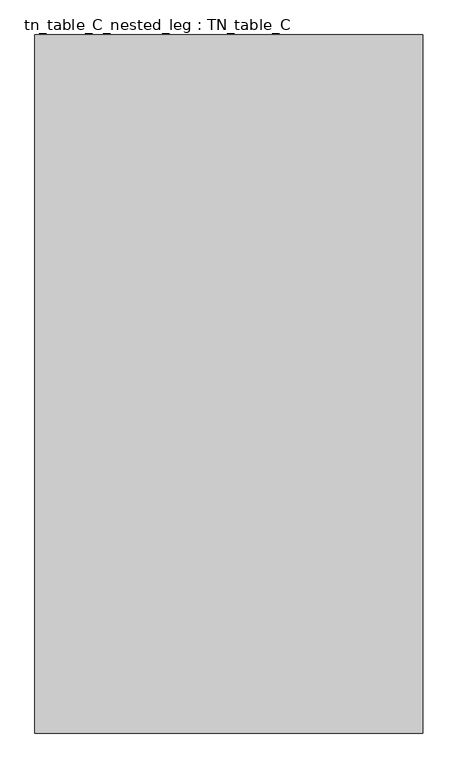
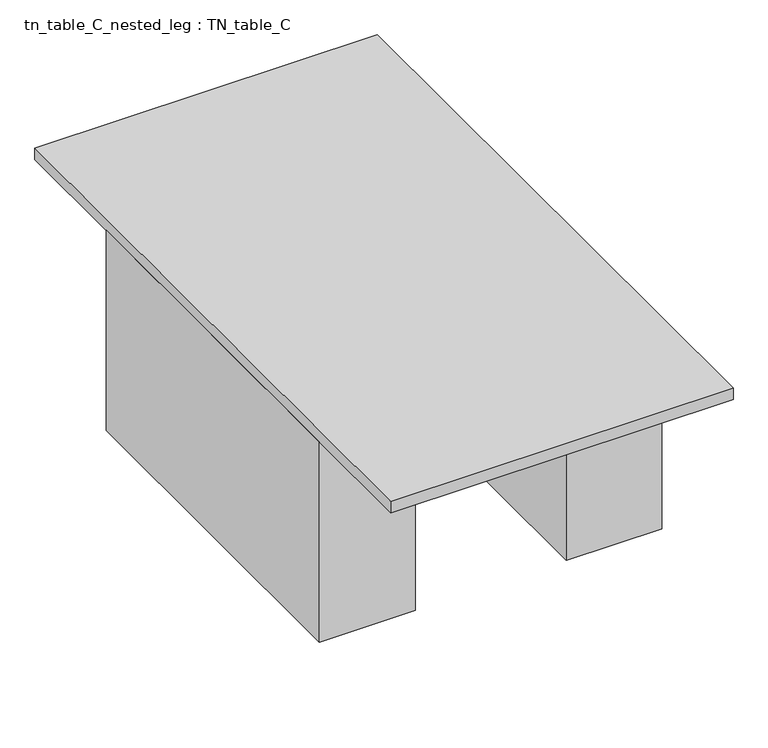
"""IFC4 building model written with IfcOpenShell, lengths in millimetres: furniture geometry, tn_table_C_nested_leg : TN_table_C."""

from ifc_helpers import new_model, si_unit, frame, origin, origin_with_axes, place, context, project, spatial, polyline, outline, extrude, source, transform, mapped, element, save


def tn_table_c_nested_leg_tn_table_c_cdfcde3a(model_context):
    return source(origin(), model_context, "Body", "SweptSolid", [
        extrude(outline(polyline([(-549.3929409, 587.7549923), (-549.3929409, -587.7549923), (-854.1929409, -587.7549923), (-854.1929409, 587.7549923), (-549.3929409, 587.7549923)])), origin_with_axes(), (0.0, 0.0, 1.0), 673.1),
        extrude(outline(polyline([(-1333.5378979, 587.7549923), (-1333.5378979, -587.7549923), (-1638.3378979, -587.7549923), (-1638.3378979, 587.7549923), (-1333.5378979, 587.7549923)])), origin_with_axes(), (0.0, 0.0, 1.0), 673.1),
        extrude(outline(polyline([(-549.3929409, 979.5916538), (-549.3929409, -979.5916538), (-1638.3378979, -979.5916538), (-1638.3378979, 979.5916538), (-549.3929409, 979.5916538)])), frame((0.0, 0.0, 673.1), z_axis=(0.0, 0.0, 1.0), x_axis=(1.0, 0.0, 0.0)), (0.0, 0.0, 1.0), 38.1),
    ])


if __name__ == "__main__":
    model = new_model("IFC4")
    model_context = context("Model", 3, world=origin())
    ifc_project = project(units=[si_unit("LENGTHUNIT", "METRE", prefix="MILLI")], contexts=[model_context])
    site = spatial("IfcSite", under=ifc_project)
    building = spatial("IfcBuilding", under=site)
    placement = place(None, origin())
    tn_table_c_nested_leg_tn_table_c_shape = tn_table_c_nested_leg_tn_table_c_cdfcde3a(model_context)
    element("IfcFurniture", 1, ObjectType="tn_table_C_nested_leg : TN_table_C", at=placement, inside=building, context=model_context, shape_type="MappedRepresentation", body=[
        mapped(tn_table_c_nested_leg_tn_table_c_shape, transform((0.0, 0.0, 0.0), x_axis=(1.0, 0.0, 0.0), y_axis=(0.0, 1.0, 0.0), z_axis=(0.0, 0.0, 1.0))),
    ])
    save(model, "model.ifc")
